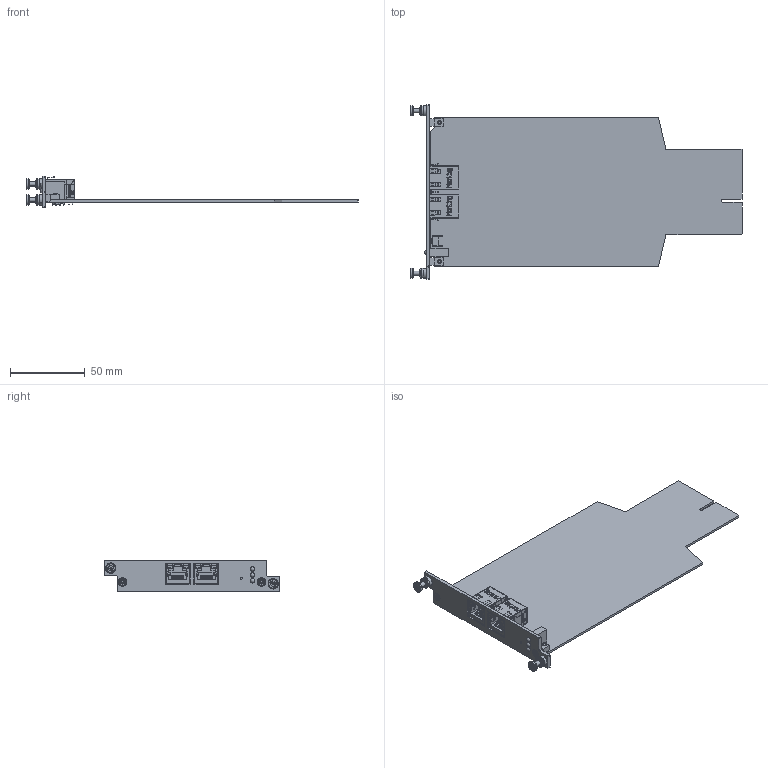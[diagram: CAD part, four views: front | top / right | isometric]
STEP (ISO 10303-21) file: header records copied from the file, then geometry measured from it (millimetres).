
FILE_DESCRIPTION(('FreeCAD Model'),'2;1');
FILE_NAME('Open CASCADE Shape Model','2023-03-21T17:05:28',('Author'),( ''),'Open CASCADE STEP processor 7.5','FreeCAD','Unknown');
FILE_SCHEMA(('AUTOMOTIVE_DESIGN { 1 0 10303 214 1 1 1 1 }'));
Length unit declared in the file: millimetre
Products named in the file (80): PCB; Board; ME108; US200250; ME107; US200251; ME106; SC01025052; ME105; SC01025053; ME103; 10172006; ME104; 10172006001; ME102; BL8702G0300; PFHV_M3-0_PFHV_M3-0; KVT_PFHV_M3_011_KVT_PFHV_M3_011; KVT_PFHV_M3_012_KVT_PFHV_M3_012; PFHV_M3-0_PFHV_M3-001; KVT_PFHV_M3_011_KVT_PFHV_M3_012; KVT_PFHV_M3_012_KVT_PFHV_M3_013; ME102002; BL8702G0100; PFHV_M3-0_PFHV_M3-004; KVT_PFHV_M3_011_KVT_PFHV_M3_015; KVT_PFHV_M3_012_KVT_PFHV_M3_016; PFHV_M3-0_PFHV_M3-005; KVT_PFHV_M3_011_KVT_PFHV_M3_016; KVT_PFHV_M3_012_KVT_PFHV_M3_017; Defeatured002; X700; 7499111447_Download_STP_7499111447_rev1_(2); insulator; shielding; A600; c-1825027-2-g-3d; LED600; 7157516800; Cylinder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
Assembly tree (79 placements, depth 5):
  PCB
    Board
    ME108
      US200250
    ME107
      US200251
    ME106
      SC01025052
    ME105
      SC01025053
    ME103
      10172006
    ME104
      10172006001
    ME102
      BL8702G0300
        PFHV_M3-0_PFHV_M3-0
          KVT_PFHV_M3_011_KVT_PFHV_M3_011
          KVT_PFHV_M3_012_KVT_PFHV_M3_012
        PFHV_M3-0_PFHV_M3-001
          KVT_PFHV_M3_011_KVT_PFHV_M3_012
          KVT_PFHV_M3_012_KVT_PFHV_M3_013
    ME102002
      BL8702G0100
        PFHV_M3-0_PFHV_M3-004
          KVT_PFHV_M3_011_KVT_PFHV_M3_015
          KVT_PFHV_M3_012_KVT_PFHV_M3_016
        PFHV_M3-0_PFHV_M3-005
          KVT_PFHV_M3_011_KVT_PFHV_M3_016
          KVT_PFHV_M3_012_KVT_PFHV_M3_017
        Defeatured002
    X700
      7499111447_Download_STP_7499111447_rev1_(2)
        insulator
        shielding
    A600
      c-1825027-2-g-3d
    LED600
      7157516800
        Cylinder
      7157516416
        Sphere
      7157516032
        Sphere001
      7157515648
        Cylinder001
      7157515264
        Cylinder002
      7157514880
        Sphere002
      7157514688
        Extruded165
      7157514496
        Extruded166
      7157514496001
        Extruded167
      7157514496002
        Extruded168
      7157514496003
        Extruded169
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Bounding box: 222.13 x 117 x 21 mm (x, y, z)
Volume: 40864.5 mm3; surface area: 56404.8 mm2
Topology: 39 solids, 41 shells, 2409 faces, 6128 edges, 3880 vertices
Faces by surface type: plane 1488, cylinder 612, bspline 124, cone 108, torus 38, extrusion 28, sphere 11
Full cylindrical faces by diameter (mm): 0.195 x2, 1.5 x1, 2.224 x4, 2.5 x4, 2.7 x2, 2.9 x4, 3 x1, 3.1 x3, 4.7 x2, 5.7 x2
Entity records: 185219 total; most frequent: CARTESIAN_POINT 59079, DIRECTION 21557, VECTOR 13751, LINE 13723, ORIENTED_EDGE 12206, PCURVE 12206, DEFINITIONAL_REPRESENTATION 12206, EDGE_CURVE 6103
